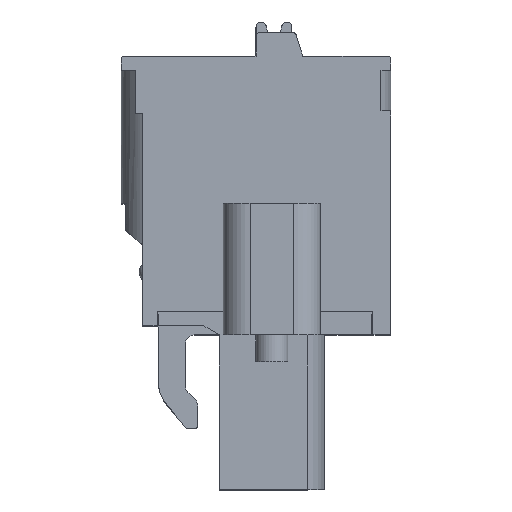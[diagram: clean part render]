
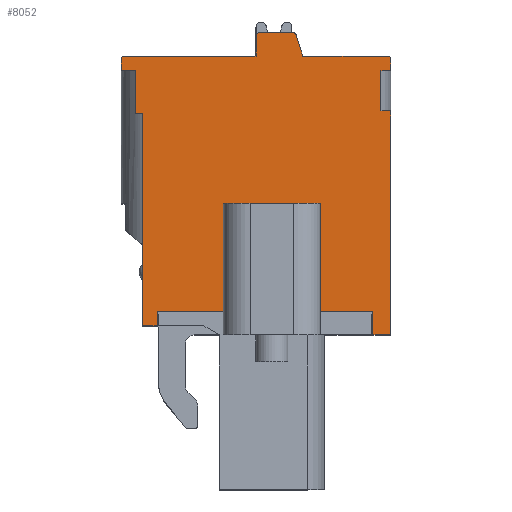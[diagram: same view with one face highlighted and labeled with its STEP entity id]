
A CAD part, top view. The second image highlights one B-rep face of the part: STEP entity #8052.
In plain terms, the highlighted planar face has unit normal (0, 0, 1).
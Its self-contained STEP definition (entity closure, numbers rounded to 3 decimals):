
#807=DIRECTION('',(-1.,0.,0.));
#808=VECTOR('',#807,3.675);
#809=CARTESIAN_POINT('',(5.675,1.3,-20.07));
#810=LINE('',#809,#808);
#811=DIRECTION('',(0.,-1.,0.));
#812=VECTOR('',#811,0.8);
#813=CARTESIAN_POINT('',(2.,1.3,-20.07));
#814=LINE('',#813,#812);
#815=DIRECTION('',(-1.,0.,0.));
#816=VECTOR('',#815,0.8);
#817=CARTESIAN_POINT('',(2.,0.5,-20.07));
#818=LINE('',#817,#816);
#819=DIRECTION('',(0.,1.,0.));
#820=VECTOR('',#819,11.8);
#821=CARTESIAN_POINT('',(1.2,0.5,-20.07));
#822=LINE('',#821,#820);
#823=DIRECTION('',(-1.,0.,0.));
#824=VECTOR('',#823,0.4);
#825=CARTESIAN_POINT('',(1.2,12.3,-20.07));
#826=LINE('',#825,#824);
#827=DIRECTION('',(0.,1.,0.));
#828=VECTOR('',#827,2.4);
#829=CARTESIAN_POINT('',(0.8,12.3,-20.07));
#830=LINE('',#829,#828);
#831=DIRECTION('',(-1.,0.,0.));
#832=VECTOR('',#831,0.8);
#833=CARTESIAN_POINT('',(0.8,14.7,-20.07));
#834=LINE('',#833,#832);
#835=DIRECTION('',(0.,1.,0.));
#836=VECTOR('',#835,0.6);
#837=CARTESIAN_POINT('',(0.,14.7,-20.07));
#838=LINE('',#837,#836);
#839=CARTESIAN_POINT('',(0.2,15.3,-20.07));
#840=DIRECTION('',(0.,0.,-1.));
#841=DIRECTION('',(-1.,0.,0.));
#842=AXIS2_PLACEMENT_3D('',#839,#840,#841);
#844=DIRECTION('',(1.,0.,0.));
#845=VECTOR('',#844,7.3);
#846=CARTESIAN_POINT('',(0.2,15.5,-20.07));
#847=LINE('',#846,#845);
#848=DIRECTION('',(0.,1.,0.));
#849=VECTOR('',#848,1.1);
#850=CARTESIAN_POINT('',(7.5,15.5,-20.07));
#851=LINE('',#850,#849);
#852=CARTESIAN_POINT('',(7.7,16.6,-20.07));
#853=DIRECTION('',(0.,0.,-1.));
#854=DIRECTION('',(-1.,0.,0.));
#855=AXIS2_PLACEMENT_3D('',#852,#853,#854);
#857=DIRECTION('',(1.,0.,0.));
#858=VECTOR('',#857,1.852);
#859=CARTESIAN_POINT('',(7.7,16.8,-20.07));
#860=LINE('',#859,#858);
#861=CARTESIAN_POINT('',(9.552,16.6,-20.07));
#862=DIRECTION('',(0.,0.,-1.));
#863=DIRECTION('',(0.,1.,0.));
#864=AXIS2_PLACEMENT_3D('',#861,#862,#863);
#866=DIRECTION('',(0.294,-0.956,0.));
#867=VECTOR('',#866,1.212);
#868=CARTESIAN_POINT('',(9.743,16.659,-20.07));
#869=LINE('',#868,#867);
#870=DIRECTION('',(1.,0.,0.));
#871=VECTOR('',#870,4.7);
#872=CARTESIAN_POINT('',(10.1,15.5,-20.07));
#873=LINE('',#872,#871);
#874=CARTESIAN_POINT('',(14.8,15.3,-20.07));
#875=DIRECTION('',(0.,0.,-1.));
#876=DIRECTION('',(0.,1.,0.));
#877=AXIS2_PLACEMENT_3D('',#874,#875,#876);
#879=DIRECTION('',(0.,-1.,0.));
#880=VECTOR('',#879,0.6);
#881=CARTESIAN_POINT('',(15.,15.3,-20.07));
#882=LINE('',#881,#880);
#883=DIRECTION('',(-1.,0.,0.));
#884=VECTOR('',#883,0.55);
#885=CARTESIAN_POINT('',(15.,14.7,-20.07));
#886=LINE('',#885,#884);
#887=DIRECTION('',(0.,-1.,0.));
#888=VECTOR('',#887,2.25);
#889=CARTESIAN_POINT('',(14.45,14.7,-20.07));
#890=LINE('',#889,#888);
#891=DIRECTION('',(1.,0.,0.));
#892=VECTOR('',#891,0.55);
#893=CARTESIAN_POINT('',(14.45,12.45,-20.07));
#894=LINE('',#893,#892);
#895=DIRECTION('',(0.,-1.,0.));
#896=VECTOR('',#895,12.45);
#897=CARTESIAN_POINT('',(15.,12.45,-20.07));
#898=LINE('',#897,#896);
#899=DIRECTION('',(-1.,0.,0.));
#900=VECTOR('',#899,1.);
#901=CARTESIAN_POINT('',(15.,0.,-20.07));
#902=LINE('',#901,#900);
#903=DIRECTION('',(0.,1.,0.));
#904=VECTOR('',#903,1.3);
#905=CARTESIAN_POINT('',(14.,0.,-20.07));
#906=LINE('',#905,#904);
#907=DIRECTION('',(-1.,0.,0.));
#908=VECTOR('',#907,2.925);
#909=CARTESIAN_POINT('',(14.,1.3,-20.07));
#910=LINE('',#909,#908);
#911=DIRECTION('',(0.,1.,0.));
#912=VECTOR('',#911,6.);
#913=CARTESIAN_POINT('',(11.075,1.3,-20.07));
#914=LINE('',#913,#912);
#915=DIRECTION('',(0.,1.,0.));
#916=VECTOR('',#915,6.);
#917=CARTESIAN_POINT('',(5.675,1.3,-20.07));
#918=LINE('',#917,#916);
#931=DIRECTION('',(1.,0.,0.));
#932=VECTOR('',#931,5.4);
#933=CARTESIAN_POINT('',(5.675,7.3,-20.07));
#934=LINE('',#933,#932);
#5278=CARTESIAN_POINT('',(11.075,1.3,-20.07));
#5280=VERTEX_POINT('',#5278);
#5282=CARTESIAN_POINT('',(14.,1.3,-20.07));
#5283=VERTEX_POINT('',#5282);
#5332=CARTESIAN_POINT('',(5.675,1.3,-20.07));
#5333=CARTESIAN_POINT('',(2.,1.3,-20.07));
#5334=VERTEX_POINT('',#5332);
#5335=VERTEX_POINT('',#5333);
#5398=CARTESIAN_POINT('',(7.5,15.5,-20.07));
#5399=VERTEX_POINT('',#5398);
#5400=CARTESIAN_POINT('',(0.2,15.5,-20.07));
#5401=VERTEX_POINT('',#5400);
#5946=CARTESIAN_POINT('',(14.,0.,-20.07));
#5947=VERTEX_POINT('',#5946);
#5976=CARTESIAN_POINT('',(14.8,15.5,-20.07));
#5978=VERTEX_POINT('',#5976);
#5980=CARTESIAN_POINT('',(10.1,15.5,-20.07));
#5981=VERTEX_POINT('',#5980);
#6023=CARTESIAN_POINT('',(15.,15.3,-20.07));
#6025=VERTEX_POINT('',#6023);
#6032=CARTESIAN_POINT('',(15.,14.7,-20.07));
#6033=VERTEX_POINT('',#6032);
#6126=CARTESIAN_POINT('',(15.,0.,-20.07));
#6127=VERTEX_POINT('',#6126);
#6132=CARTESIAN_POINT('',(5.675,7.3,-20.07));
#6133=VERTEX_POINT('',#6132);
#6134=CARTESIAN_POINT('',(2.,0.5,-20.07));
#6135=VERTEX_POINT('',#6134);
#6136=CARTESIAN_POINT('',(1.2,0.5,-20.07));
#6137=VERTEX_POINT('',#6136);
#6138=CARTESIAN_POINT('',(1.2,12.3,-20.07));
#6139=VERTEX_POINT('',#6138);
#6140=CARTESIAN_POINT('',(0.8,12.3,-20.07));
#6141=VERTEX_POINT('',#6140);
#6142=CARTESIAN_POINT('',(0.8,14.7,-20.07));
#6143=VERTEX_POINT('',#6142);
#6144=CARTESIAN_POINT('',(0.,14.7,-20.07));
#6145=VERTEX_POINT('',#6144);
#6146=CARTESIAN_POINT('',(0.,15.3,-20.07));
#6147=VERTEX_POINT('',#6146);
#6148=CARTESIAN_POINT('',(7.5,16.6,-20.07));
#6149=VERTEX_POINT('',#6148);
#6150=CARTESIAN_POINT('',(7.7,16.8,-20.07));
#6151=VERTEX_POINT('',#6150);
#6152=CARTESIAN_POINT('',(9.552,16.8,-20.07));
#6153=VERTEX_POINT('',#6152);
#6154=CARTESIAN_POINT('',(9.743,16.659,-20.07));
#6155=VERTEX_POINT('',#6154);
#6156=CARTESIAN_POINT('',(14.45,14.7,-20.07));
#6157=VERTEX_POINT('',#6156);
#6158=CARTESIAN_POINT('',(14.45,12.45,-20.07));
#6159=VERTEX_POINT('',#6158);
#6160=CARTESIAN_POINT('',(15.,12.45,-20.07));
#6161=VERTEX_POINT('',#6160);
#6162=CARTESIAN_POINT('',(11.075,7.3,-20.07));
#6163=VERTEX_POINT('',#6162);
#7992=CARTESIAN_POINT('',(8.4,7.5,-20.07));
#7993=DIRECTION('',(0.,0.,1.));
#7994=DIRECTION('',(1.,0.,0.));
#7995=AXIS2_PLACEMENT_3D('',#7992,#7993,#7994);
#7996=PLANE('',#7995);
#7998=ORIENTED_EDGE('',*,*,#7997,.F.);
#7999=ORIENTED_EDGE('',*,*,#7981,.T.);
#8000=ORIENTED_EDGE('',*,*,#7918,.T.);
#8002=ORIENTED_EDGE('',*,*,#8001,.T.);
#8004=ORIENTED_EDGE('',*,*,#8003,.T.);
#8006=ORIENTED_EDGE('',*,*,#8005,.T.);
#8008=ORIENTED_EDGE('',*,*,#8007,.T.);
#8010=ORIENTED_EDGE('',*,*,#8009,.T.);
#8012=ORIENTED_EDGE('',*,*,#8011,.T.);
#8014=ORIENTED_EDGE('',*,*,#8013,.T.);
#8015=ORIENTED_EDGE('',*,*,#7210,.T.);
#8017=ORIENTED_EDGE('',*,*,#8016,.T.);
#8019=ORIENTED_EDGE('',*,*,#8018,.T.);
#8021=ORIENTED_EDGE('',*,*,#8020,.T.);
#8023=ORIENTED_EDGE('',*,*,#8022,.T.);
#8025=ORIENTED_EDGE('',*,*,#8024,.T.);
#8027=ORIENTED_EDGE('',*,*,#8026,.T.);
#8029=ORIENTED_EDGE('',*,*,#8028,.T.);
#8031=ORIENTED_EDGE('',*,*,#8030,.T.);
#8033=ORIENTED_EDGE('',*,*,#8032,.T.);
#8035=ORIENTED_EDGE('',*,*,#8034,.T.);
#8037=ORIENTED_EDGE('',*,*,#8036,.T.);
#8039=ORIENTED_EDGE('',*,*,#8038,.T.);
#8041=ORIENTED_EDGE('',*,*,#8040,.T.);
#8043=ORIENTED_EDGE('',*,*,#8042,.T.);
#8045=ORIENTED_EDGE('',*,*,#8044,.T.);
#8047=ORIENTED_EDGE('',*,*,#8046,.T.);
#8049=ORIENTED_EDGE('',*,*,#8048,.F.);
#8050=EDGE_LOOP('',(#7998,#7999,#8000,#8002,#8004,#8006,#8008,#8010,#8012,#8014,
#8015,#8017,#8019,#8021,#8023,#8025,#8027,#8029,#8031,#8033,#8035,#8037,#8039,
#8041,#8043,#8045,#8047,#8049));
#8051=FACE_OUTER_BOUND('',#8050,.F.);
#8052=ADVANCED_FACE('',(#8051),#7996,.T.);
#843=CIRCLE('',#842,0.2);
#856=CIRCLE('',#855,0.2);
#865=CIRCLE('',#864,0.2);
#878=CIRCLE('',#877,0.2);
#7210=EDGE_CURVE('',#5401,#5399,#847,.T.);
#7918=EDGE_CURVE('',#5335,#6135,#814,.T.);
#7981=EDGE_CURVE('',#5334,#5335,#810,.T.);
#7997=EDGE_CURVE('',#5334,#6133,#918,.T.);
#8001=EDGE_CURVE('',#6135,#6137,#818,.T.);
#8003=EDGE_CURVE('',#6137,#6139,#822,.T.);
#8005=EDGE_CURVE('',#6139,#6141,#826,.T.);
#8007=EDGE_CURVE('',#6141,#6143,#830,.T.);
#8009=EDGE_CURVE('',#6143,#6145,#834,.T.);
#8011=EDGE_CURVE('',#6145,#6147,#838,.T.);
#8013=EDGE_CURVE('',#6147,#5401,#843,.T.);
#8016=EDGE_CURVE('',#5399,#6149,#851,.T.);
#8018=EDGE_CURVE('',#6149,#6151,#856,.T.);
#8020=EDGE_CURVE('',#6151,#6153,#860,.T.);
#8022=EDGE_CURVE('',#6153,#6155,#865,.T.);
#8024=EDGE_CURVE('',#6155,#5981,#869,.T.);
#8026=EDGE_CURVE('',#5981,#5978,#873,.T.);
#8028=EDGE_CURVE('',#5978,#6025,#878,.T.);
#8030=EDGE_CURVE('',#6025,#6033,#882,.T.);
#8032=EDGE_CURVE('',#6033,#6157,#886,.T.);
#8034=EDGE_CURVE('',#6157,#6159,#890,.T.);
#8036=EDGE_CURVE('',#6159,#6161,#894,.T.);
#8038=EDGE_CURVE('',#6161,#6127,#898,.T.);
#8040=EDGE_CURVE('',#6127,#5947,#902,.T.);
#8042=EDGE_CURVE('',#5947,#5283,#906,.T.);
#8044=EDGE_CURVE('',#5283,#5280,#910,.T.);
#8046=EDGE_CURVE('',#5280,#6163,#914,.T.);
#8048=EDGE_CURVE('',#6133,#6163,#934,.T.);
